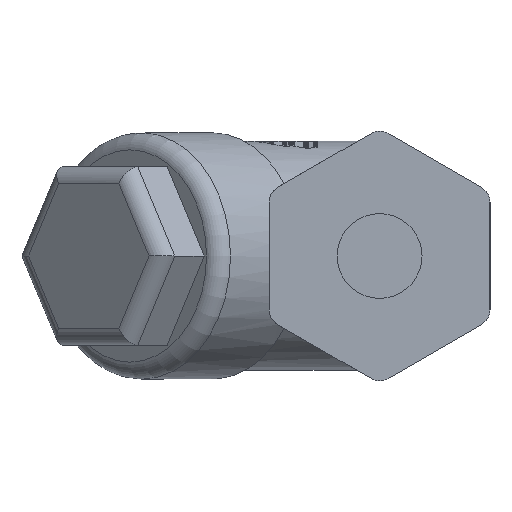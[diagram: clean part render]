
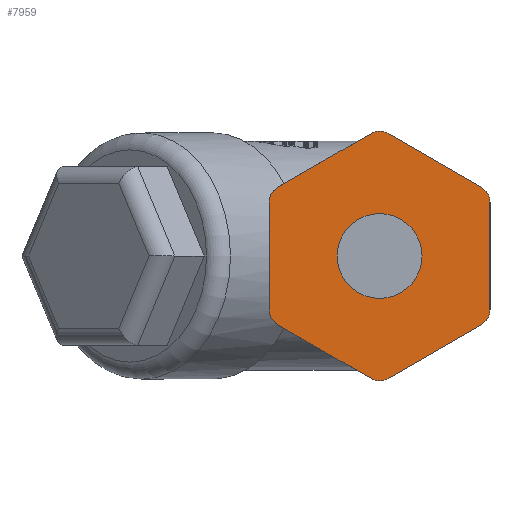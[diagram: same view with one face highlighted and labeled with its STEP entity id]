
A CAD part, left-side view. The second image highlights one B-rep face of the part: STEP entity #7959.
In plain terms, the highlighted planar face has unit normal (-1, 0, 0).
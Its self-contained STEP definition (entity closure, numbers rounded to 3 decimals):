
#7959=ADVANCED_FACE('',(#15030,#15032),#15034,.F.);
#15030=FACE_BOUND('',#15031,.T.);
#15031=EDGE_LOOP('',(#20180,#20181,#20182,#20183,#20184,#20185,#20186,#20187,#20188,
#20189,#20190,#20191));
#15032=FACE_BOUND('',#15033,.T.);
#15033=EDGE_LOOP('',(#20192));
#15034=PLANE('',#15035);
#15035=AXIS2_PLACEMENT_3D('',#15036,#15037,#15038);
#15036=CARTESIAN_POINT('',(-59.946,0.732,0.));
#15037=DIRECTION('',(1.,0.,0.));
#15038=DIRECTION('',(0.,0.,-1.));
#20180=ORIENTED_EDGE('',*,*,#21099,.F.);
#20181=ORIENTED_EDGE('',*,*,#21095,.T.);
#20182=ORIENTED_EDGE('',*,*,#21109,.F.);
#20183=ORIENTED_EDGE('',*,*,#21111,.T.);
#20184=ORIENTED_EDGE('',*,*,#21113,.F.);
#20185=ORIENTED_EDGE('',*,*,#21115,.T.);
#20186=ORIENTED_EDGE('',*,*,#21117,.F.);
#20187=ORIENTED_EDGE('',*,*,#21119,.T.);
#20188=ORIENTED_EDGE('',*,*,#21120,.F.);
#20189=ORIENTED_EDGE('',*,*,#21070,.T.);
#20190=ORIENTED_EDGE('',*,*,#21092,.F.);
#20191=ORIENTED_EDGE('',*,*,#21098,.T.);
#20192=ORIENTED_EDGE('',*,*,#20199,.T.);
#20199=EDGE_CURVE('',#22777,#22777,#22778,.T.);
#21070=EDGE_CURVE('',#24504,#24502,#24505,.T.);
#21092=EDGE_CURVE('',#24543,#24502,#24545,.T.);
#21095=EDGE_CURVE('',#24550,#24548,#24551,.T.);
#21098=EDGE_CURVE('',#24543,#24553,#24555,.T.);
#21099=EDGE_CURVE('',#24550,#24553,#24556,.T.);
#21109=EDGE_CURVE('',#24571,#24548,#24573,.T.);
#21111=EDGE_CURVE('',#24571,#24574,#24576,.T.);
#21113=EDGE_CURVE('',#24577,#24574,#24579,.T.);
#21115=EDGE_CURVE('',#24577,#24580,#24582,.T.);
#21117=EDGE_CURVE('',#24583,#24580,#24585,.T.);
#21119=EDGE_CURVE('',#24583,#24586,#24588,.T.);
#21120=EDGE_CURVE('',#24504,#24586,#24589,.T.);
#22777=VERTEX_POINT('',#27080);
#22778=CIRCLE('',#27081,5.);
#24502=VERTEX_POINT('',#31959);
#24504=VERTEX_POINT('',#31963);
#24505=LINE('',#31964,#31965);
#24543=VERTEX_POINT('',#32140);
#24545=CIRCLE('',#32144,2.);
#24548=VERTEX_POINT('',#32152);
#24550=VERTEX_POINT('',#32156);
#24551=LINE('',#32157,#32158);
#24553=VERTEX_POINT('',#32163);
#24555=LINE('',#32167,#32168);
#24556=CIRCLE('',#32170,2.);
#24571=VERTEX_POINT('',#32209);
#24573=CIRCLE('',#32213,2.);
#24574=VERTEX_POINT('',#32217);
#24576=LINE('',#32221,#32222);
#24577=VERTEX_POINT('',#32224);
#24579=CIRCLE('',#32228,2.);
#24580=VERTEX_POINT('',#32232);
#24582=LINE('',#32236,#32237);
#24583=VERTEX_POINT('',#32239);
#24585=CIRCLE('',#32243,2.);
#24586=VERTEX_POINT('',#32247);
#24588=LINE('',#32251,#32252);
#24589=CIRCLE('',#32254,2.);
#27080=CARTESIAN_POINT('',(-59.946,-4.268,0.));
#27081=AXIS2_PLACEMENT_3D('',#27082,#27083,#27084);
#27082=CARTESIAN_POINT('',(-59.946,0.732,0.));
#27083=DIRECTION('',(1.,0.,0.));
#27084=DIRECTION('',(0.,-1.,0.));
#31959=CARTESIAN_POINT('',(-59.946,12.732,8.083));
#31963=CARTESIAN_POINT('',(-59.946,1.732,14.434));
#31964=CARTESIAN_POINT('',(-59.946,1.732,14.434));
#31965=VECTOR('',#31966,1.);
#31966=DIRECTION('',(0.,0.866,-0.5));
#32140=CARTESIAN_POINT('',(-59.946,13.732,6.351));
#32144=AXIS2_PLACEMENT_3D('',#32145,#32146,#32147);
#32145=CARTESIAN_POINT('',(-59.946,11.732,6.351));
#32146=DIRECTION('',(1.,0.,0.));
#32147=DIRECTION('',(0.,1.,0.));
#32152=CARTESIAN_POINT('',(-59.946,1.732,-14.434));
#32156=CARTESIAN_POINT('',(-59.946,12.732,-8.083));
#32157=CARTESIAN_POINT('',(-59.946,12.732,-8.083));
#32158=VECTOR('',#32159,1.);
#32159=DIRECTION('',(0.,-0.866,-0.5));
#32163=CARTESIAN_POINT('',(-59.946,13.732,-6.351));
#32167=CARTESIAN_POINT('',(-59.946,13.732,6.351));
#32168=VECTOR('',#32169,1.);
#32169=DIRECTION('',(0.,0.,-1.));
#32170=AXIS2_PLACEMENT_3D('',#32171,#32172,#32173);
#32171=CARTESIAN_POINT('',(-59.946,11.732,-6.351));
#32172=DIRECTION('',(1.,0.,0.));
#32173=DIRECTION('',(0.,0.5,-0.866));
#32209=CARTESIAN_POINT('',(-59.946,-0.268,-14.434));
#32213=AXIS2_PLACEMENT_3D('',#32214,#32215,#32216);
#32214=CARTESIAN_POINT('',(-59.946,0.732,-12.702));
#32215=DIRECTION('',(1.,0.,0.));
#32216=DIRECTION('',(0.,-0.5,-0.866));
#32217=CARTESIAN_POINT('',(-59.946,-11.268,-8.083));
#32221=CARTESIAN_POINT('',(-59.946,-0.268,-14.434));
#32222=VECTOR('',#32223,1.);
#32223=DIRECTION('',(0.,-0.866,0.5));
#32224=CARTESIAN_POINT('',(-59.946,-12.268,-6.351));
#32228=AXIS2_PLACEMENT_3D('',#32229,#32230,#32231);
#32229=CARTESIAN_POINT('',(-59.946,-10.268,-6.351));
#32230=DIRECTION('',(1.,0.,0.));
#32231=DIRECTION('',(0.,-1.,0.));
#32232=CARTESIAN_POINT('',(-59.946,-12.268,6.351));
#32236=CARTESIAN_POINT('',(-59.946,-12.268,-6.351));
#32237=VECTOR('',#32238,1.);
#32238=DIRECTION('',(0.,0.,1.));
#32239=CARTESIAN_POINT('',(-59.946,-11.268,8.083));
#32243=AXIS2_PLACEMENT_3D('',#32244,#32245,#32246);
#32244=CARTESIAN_POINT('',(-59.946,-10.268,6.351));
#32245=DIRECTION('',(1.,0.,0.));
#32246=DIRECTION('',(0.,-0.5,0.866));
#32247=CARTESIAN_POINT('',(-59.946,-0.268,14.434));
#32251=CARTESIAN_POINT('',(-59.946,-11.268,8.083));
#32252=VECTOR('',#32253,1.);
#32253=DIRECTION('',(0.,0.866,0.5));
#32254=AXIS2_PLACEMENT_3D('',#32255,#32256,#32257);
#32255=CARTESIAN_POINT('',(-59.946,0.732,12.702));
#32256=DIRECTION('',(1.,0.,0.));
#32257=DIRECTION('',(0.,0.5,0.866));
